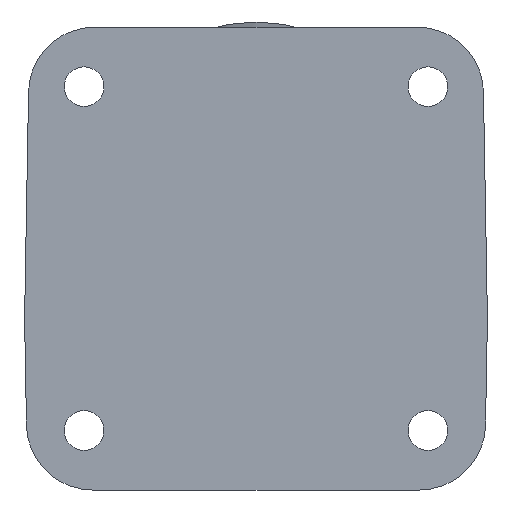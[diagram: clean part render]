
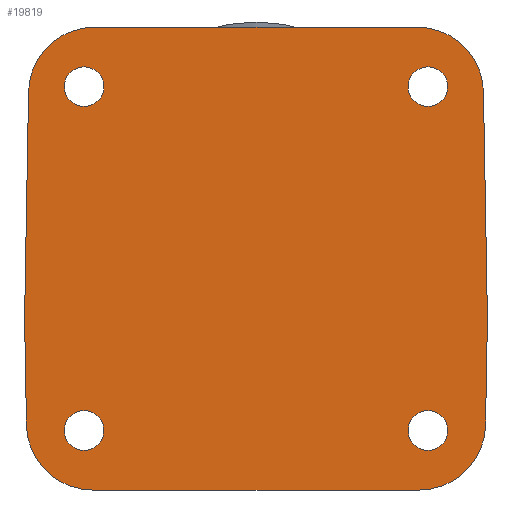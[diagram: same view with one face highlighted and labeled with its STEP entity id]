
A CAD part, front view. The second image highlights one B-rep face of the part: STEP entity #19819.
In plain terms, the highlighted planar face has unit normal (0, -1, 0).
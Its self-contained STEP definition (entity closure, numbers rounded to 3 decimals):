
#193 = ORIENTED_EDGE ( 'NONE', *, *, #2804, .T. ) ;
#516 = EDGE_CURVE ( 'NONE', #17562, #17562, #5275, .T. ) ;
#1301 = AXIS2_PLACEMENT_3D ( 'NONE', #14339, #14131, #10904 ) ;
#1329 = EDGE_CURVE ( 'NONE', #17289, #6455, #6643, .T. ) ;
#1374 = DIRECTION ( 'NONE',  ( 0., 1., 0. ) ) ;
#1416 = EDGE_LOOP ( 'NONE', ( #4020 ) ) ;
#1475 = CARTESIAN_POINT ( 'NONE',  ( 24.405, -12., 25. ) ) ;
#1670 = DIRECTION ( 'NONE',  ( 0., 0., 1. ) ) ;
#1689 = LINE ( 'NONE', #21685, #5807 ) ;
#2015 = CARTESIAN_POINT ( 'NONE',  ( 34.403, -12., 25.175 ) ) ;
#2062 = CIRCLE ( 'NONE', #21543, 10. ) ;
#2321 = EDGE_CURVE ( 'NONE', #19543, #19543, #5241, .T. ) ;
#2458 = EDGE_CURVE ( 'NONE', #17358, #9332, #11593, .T. ) ;
#2524 = DIRECTION ( 'NONE',  ( 0., 1., 0. ) ) ;
#2561 = DIRECTION ( 'NONE',  ( 1., 0., 0. ) ) ;
#2698 = CARTESIAN_POINT ( 'NONE',  ( 34.718, -12., -25.175 ) ) ;
#2704 = DIRECTION ( 'NONE',  ( 0., 0., 1. ) ) ;
#2804 = EDGE_CURVE ( 'NONE', #6132, #16273, #2062, .T. ) ;
#2836 = LINE ( 'NONE', #21492, #9701 ) ;
#3110 = AXIS2_PLACEMENT_3D ( 'NONE', #16755, #19648, #9657 ) ;
#3150 = CARTESIAN_POINT ( 'NONE',  ( 24.405, -12., 35. ) ) ;
#3445 = AXIS2_PLACEMENT_3D ( 'NONE', #3575, #10356, #1670 ) ;
#3449 = ORIENTED_EDGE ( 'NONE', *, *, #17725, .T. ) ;
#3575 = CARTESIAN_POINT ( 'NONE',  ( -24.405, -12., 25. ) ) ;
#3869 = CARTESIAN_POINT ( 'NONE',  ( 35., -12., -9. ) ) ;
#3923 = ORIENTED_EDGE ( 'NONE', *, *, #4090, .T. ) ;
#3981 = EDGE_CURVE ( 'NONE', #9241, #9241, #19431, .T. ) ;
#4020 = ORIENTED_EDGE ( 'NONE', *, *, #2321, .T. ) ;
#4082 = EDGE_LOOP ( 'NONE', ( #21312 ) ) ;
#4090 = EDGE_CURVE ( 'NONE', #4881, #14480, #8447, .T. ) ;
#4592 = DIRECTION ( 'NONE',  ( 0., -1., 0. ) ) ;
#4755 = VERTEX_POINT ( 'NONE', #3869 ) ;
#4881 = VERTEX_POINT ( 'NONE', #6840 ) ;
#4887 = AXIS2_PLACEMENT_3D ( 'NONE', #15308, #8774, #13633 ) ;
#4891 = EDGE_CURVE ( 'NONE', #16273, #17289, #6384, .T. ) ;
#5170 = ORIENTED_EDGE ( 'NONE', *, *, #14306, .T. ) ;
#5241 = CIRCLE ( 'NONE', #1301, 3. ) ;
#5275 = CIRCLE ( 'NONE', #20155, 3. ) ;
#5288 = EDGE_LOOP ( 'NONE', ( #5170 ) ) ;
#5488 = VECTOR ( 'NONE', #10402, 1000. ) ;
#5749 = CARTESIAN_POINT ( 'NONE',  ( -34.403, -12., 25.175 ) ) ;
#5807 = VECTOR ( 'NONE', #14891, 1000. ) ;
#6089 = ORIENTED_EDGE ( 'NONE', *, *, #1329, .T. ) ;
#6130 = FACE_BOUND ( 'NONE', #9511, .T. ) ;
#6132 = VERTEX_POINT ( 'NONE', #2015 ) ;
#6346 = CARTESIAN_POINT ( 'NONE',  ( 0., -12., 0. ) ) ;
#6384 = LINE ( 'NONE', #20036, #16587 ) ;
#6455 = VERTEX_POINT ( 'NONE', #5749 ) ;
#6509 = DIRECTION ( 'NONE',  ( -0.017, 0., 1. ) ) ;
#6643 = CIRCLE ( 'NONE', #3445, 10. ) ;
#6797 = DIRECTION ( 'NONE',  ( 0., 0., -1. ) ) ;
#6840 = CARTESIAN_POINT ( 'NONE',  ( -34.718, -12., -25.175 ) ) ;
#7281 = AXIS2_PLACEMENT_3D ( 'NONE', #6346, #13889, #6797 ) ;
#7323 = ORIENTED_EDGE ( 'NONE', *, *, #2458, .T. ) ;
#8007 = FACE_BOUND ( 'NONE', #5288, .T. ) ;
#8142 = EDGE_CURVE ( 'NONE', #14480, #17358, #15776, .T. ) ;
#8447 = CIRCLE ( 'NONE', #14807, 10. ) ;
#8665 = CARTESIAN_POINT ( 'NONE',  ( 24.719, -12., -35. ) ) ;
#8742 = CARTESIAN_POINT ( 'NONE',  ( 34.718, -12., -25.175 ) ) ;
#8774 = DIRECTION ( 'NONE',  ( 0., -1., 0. ) ) ;
#9241 = VERTEX_POINT ( 'NONE', #19332 ) ;
#9332 = VERTEX_POINT ( 'NONE', #8742 ) ;
#9443 = CARTESIAN_POINT ( 'NONE',  ( 26., -12., -23. ) ) ;
#9511 = EDGE_LOOP ( 'NONE', ( #19261 ) ) ;
#9657 = DIRECTION ( 'NONE',  ( 0., 0., 1. ) ) ;
#9701 = VECTOR ( 'NONE', #6509, 1000. ) ;
#9941 = DIRECTION ( 'NONE',  ( 0., 0., 1. ) ) ;
#10144 = ORIENTED_EDGE ( 'NONE', *, *, #4891, .T. ) ;
#10356 = DIRECTION ( 'NONE',  ( 0., -1., 0. ) ) ;
#10402 = DIRECTION ( 'NONE',  ( -0.017, 0., -1. ) ) ;
#10588 = CARTESIAN_POINT ( 'NONE',  ( 0., -12., -35. ) ) ;
#10617 = CARTESIAN_POINT ( 'NONE',  ( -24.719, -12., -35. ) ) ;
#10904 = DIRECTION ( 'NONE',  ( 0., 0., 1. ) ) ;
#11385 = CARTESIAN_POINT ( 'NONE',  ( 26., -12., -26. ) ) ;
#11593 = CIRCLE ( 'NONE', #4887, 10. ) ;
#12050 = LINE ( 'NONE', #18840, #5488 ) ;
#12069 = VERTEX_POINT ( 'NONE', #13270 ) ;
#12871 = FACE_OUTER_BOUND ( 'NONE', #18497, .T. ) ;
#13270 = CARTESIAN_POINT ( 'NONE',  ( 26., -12., 29. ) ) ;
#13402 = ORIENTED_EDGE ( 'NONE', *, *, #18471, .T. ) ;
#13633 = DIRECTION ( 'NONE',  ( 0., 0., 1. ) ) ;
#13783 = VERTEX_POINT ( 'NONE', #21297 ) ;
#13889 = DIRECTION ( 'NONE',  ( 0., -1., 0. ) ) ;
#14131 = DIRECTION ( 'NONE',  ( 0., 1., 0. ) ) ;
#14252 = LINE ( 'NONE', #2698, #17155 ) ;
#14306 = EDGE_CURVE ( 'NONE', #12069, #12069, #19744, .T. ) ;
#14339 = CARTESIAN_POINT ( 'NONE',  ( -26., -12., -26. ) ) ;
#14480 = VERTEX_POINT ( 'NONE', #10617 ) ;
#14765 = PLANE ( 'NONE',  #7281 ) ;
#14807 = AXIS2_PLACEMENT_3D ( 'NONE', #18310, #21426, #16527 ) ;
#14891 = DIRECTION ( 'NONE',  ( 0.017, 0., -1. ) ) ;
#15258 = DIRECTION ( 'NONE',  ( -1., 0., 0. ) ) ;
#15308 = CARTESIAN_POINT ( 'NONE',  ( 24.719, -12., -25. ) ) ;
#15776 = LINE ( 'NONE', #10588, #20929 ) ;
#16085 = ORIENTED_EDGE ( 'NONE', *, *, #8142, .T. ) ;
#16273 = VERTEX_POINT ( 'NONE', #3150 ) ;
#16323 = ORIENTED_EDGE ( 'NONE', *, *, #21405, .T. ) ;
#16527 = DIRECTION ( 'NONE',  ( 0., 0., 1. ) ) ;
#16587 = VECTOR ( 'NONE', #15258, 1000. ) ;
#16659 = FACE_BOUND ( 'NONE', #4082, .T. ) ;
#16755 = CARTESIAN_POINT ( 'NONE',  ( -26., -12., 26. ) ) ;
#17155 = VECTOR ( 'NONE', #18667, 1000. ) ;
#17289 = VERTEX_POINT ( 'NONE', #19646 ) ;
#17358 = VERTEX_POINT ( 'NONE', #8665 ) ;
#17562 = VERTEX_POINT ( 'NONE', #9443 ) ;
#17725 = EDGE_CURVE ( 'NONE', #9332, #4755, #14252, .T. ) ;
#18310 = CARTESIAN_POINT ( 'NONE',  ( -24.719, -12., -25. ) ) ;
#18471 = EDGE_CURVE ( 'NONE', #4755, #6132, #2836, .T. ) ;
#18497 = EDGE_LOOP ( 'NONE', ( #13402, #193, #10144, #6089, #18735, #16323, #3923, #16085, #7323, #3449 ) ) ;
#18609 = EDGE_CURVE ( 'NONE', #6455, #13783, #12050, .T. ) ;
#18667 = DIRECTION ( 'NONE',  ( 0.017, 0., 1. ) ) ;
#18735 = ORIENTED_EDGE ( 'NONE', *, *, #18609, .T. ) ;
#18840 = CARTESIAN_POINT ( 'NONE',  ( -34.403, -12., 25.175 ) ) ;
#19261 = ORIENTED_EDGE ( 'NONE', *, *, #516, .T. ) ;
#19332 = CARTESIAN_POINT ( 'NONE',  ( -26., -12., 29. ) ) ;
#19401 = AXIS2_PLACEMENT_3D ( 'NONE', #21379, #1374, #9941 ) ;
#19431 = CIRCLE ( 'NONE', #3110, 3. ) ;
#19505 = DIRECTION ( 'NONE',  ( 0., 0., 1. ) ) ;
#19543 = VERTEX_POINT ( 'NONE', #21003 ) ;
#19646 = CARTESIAN_POINT ( 'NONE',  ( -24.405, -12., 35. ) ) ;
#19648 = DIRECTION ( 'NONE',  ( 0., 1., 0. ) ) ;
#19744 = CIRCLE ( 'NONE', #19401, 3. ) ;
#19819 = ADVANCED_FACE ( 'NONE', ( #8007, #16659, #21336, #6130, #12871 ), #14765, .T. ) ;
#20036 = CARTESIAN_POINT ( 'NONE',  ( 0., -12., 35. ) ) ;
#20155 = AXIS2_PLACEMENT_3D ( 'NONE', #11385, #2524, #19505 ) ;
#20929 = VECTOR ( 'NONE', #2561, 1000. ) ;
#21003 = CARTESIAN_POINT ( 'NONE',  ( -26., -12., -23. ) ) ;
#21297 = CARTESIAN_POINT ( 'NONE',  ( -35., -12., -9. ) ) ;
#21312 = ORIENTED_EDGE ( 'NONE', *, *, #3981, .T. ) ;
#21336 = FACE_BOUND ( 'NONE', #1416, .T. ) ;
#21379 = CARTESIAN_POINT ( 'NONE',  ( 26., -12., 26. ) ) ;
#21405 = EDGE_CURVE ( 'NONE', #13783, #4881, #1689, .T. ) ;
#21426 = DIRECTION ( 'NONE',  ( 0., -1., 0. ) ) ;
#21492 = CARTESIAN_POINT ( 'NONE',  ( 35., -12., -9. ) ) ;
#21543 = AXIS2_PLACEMENT_3D ( 'NONE', #1475, #4592, #2704 ) ;
#21685 = CARTESIAN_POINT ( 'NONE',  ( -35., -12., -9. ) ) ;
